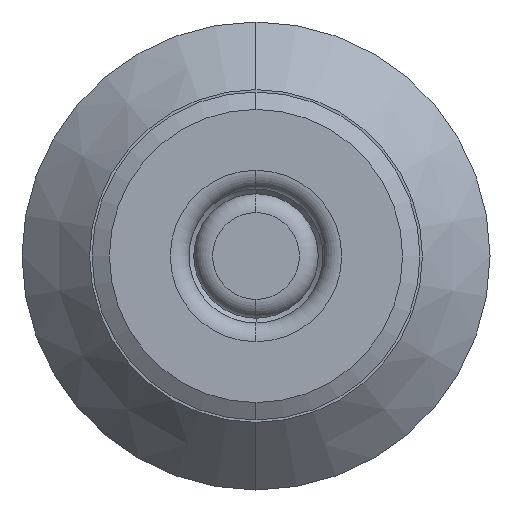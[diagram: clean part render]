
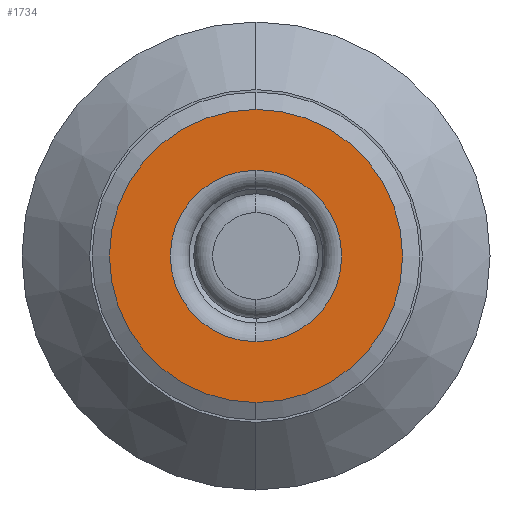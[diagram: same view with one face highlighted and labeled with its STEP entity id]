
A CAD part, left-side view. The second image highlights one B-rep face of the part: STEP entity #1734.
In plain terms, the highlighted planar face has unit normal (-1, 0, 0).
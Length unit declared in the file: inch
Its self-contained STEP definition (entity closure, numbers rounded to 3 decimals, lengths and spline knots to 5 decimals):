
#335 = DIRECTION ( 'NONE',  ( 0., 0., 1. ) ) ;
#336 = DIRECTION ( 'NONE',  ( 1., 0., 0. ) ) ;
#337 = AXIS2_PLACEMENT_3D ( 'NONE', #344, #336, #335 ) ;
#338 = CIRCLE ( 'NONE', #337, 0.11714 ) ;
#344 = CARTESIAN_POINT ( 'NONE',  ( -0.8185, 0., 0. ) ) ;
#447 = DIRECTION ( 'NONE',  ( 0., 0., -1. ) ) ;
#448 = DIRECTION ( 'NONE',  ( 1., 0., 0. ) ) ;
#449 = CARTESIAN_POINT ( 'NONE',  ( -0.8185, 0., 0. ) ) ;
#450 = AXIS2_PLACEMENT_3D ( 'NONE', #449, #448, #447 ) ;
#451 = CIRCLE ( 'NONE', #450, 0.0685 ) ;
#452 = DIRECTION ( 'NONE',  ( 0., 0., -1. ) ) ;
#453 = DIRECTION ( 'NONE',  ( -1., 0., 0. ) ) ;
#454 = CARTESIAN_POINT ( 'NONE',  ( -0.8185, 0., 0. ) ) ;
#455 = AXIS2_PLACEMENT_3D ( 'NONE', #454, #453, #452 ) ;
#456 = PLANE ( 'NONE',  #455 ) ;
#480 = FACE_OUTER_BOUND ( 'NONE', #1915, .T. ) ;
#481 = FACE_BOUND ( 'NONE', #1907, .T. ) ;
#526 = CARTESIAN_POINT ( 'NONE',  ( -0.8185, 0., 0.0685 ) ) ;
#549 = CARTESIAN_POINT ( 'NONE',  ( -0.8185, 0., -0.11714 ) ) ;
#550 = DIRECTION ( 'NONE',  ( 0., 0., 1. ) ) ;
#551 = DIRECTION ( 'NONE',  ( 1., 0., 0. ) ) ;
#552 = CARTESIAN_POINT ( 'NONE',  ( -0.8185, 0., 0. ) ) ;
#553 = AXIS2_PLACEMENT_3D ( 'NONE', #552, #551, #550 ) ;
#557 = CIRCLE ( 'NONE', #553, 0.11714 ) ;
#1008 = CARTESIAN_POINT ( 'NONE',  ( -0.8185, 0., 0.11714 ) ) ;
#1086 = CARTESIAN_POINT ( 'NONE',  ( -0.8185, 0., -0.0685 ) ) ;
#1087 = DIRECTION ( 'NONE',  ( 0., 0., -1. ) ) ;
#1088 = DIRECTION ( 'NONE',  ( 1., 0., 0. ) ) ;
#1089 = CARTESIAN_POINT ( 'NONE',  ( -0.8185, 0., 0. ) ) ;
#1090 = AXIS2_PLACEMENT_3D ( 'NONE', #1089, #1088, #1087 ) ;
#1091 = CIRCLE ( 'NONE', #1090, 0.0685 ) ;
#1722 = VERTEX_POINT ( 'NONE', #526 ) ;
#1731 = EDGE_CURVE ( 'NONE', #1795, #1927, #338, .T. ) ;
#1734 = ADVANCED_FACE ( 'NONE', ( #481, #480 ), #456, .T. ) ;
#1735 = EDGE_CURVE ( 'NONE', #1942, #1722, #451, .T. ) ;
#1736 = ORIENTED_EDGE ( 'NONE', *, *, #1735, .T. ) ;
#1765 = ORIENTED_EDGE ( 'NONE', *, *, #1794, .F. ) ;
#1767 = ORIENTED_EDGE ( 'NONE', *, *, #1941, .T. ) ;
#1794 = EDGE_CURVE ( 'NONE', #1927, #1795, #557, .T. ) ;
#1795 = VERTEX_POINT ( 'NONE', #549 ) ;
#1907 = EDGE_LOOP ( 'NONE', ( #1736, #1767 ) ) ;
#1915 = EDGE_LOOP ( 'NONE', ( #1765, #1935 ) ) ;
#1927 = VERTEX_POINT ( 'NONE', #1008 ) ;
#1935 = ORIENTED_EDGE ( 'NONE', *, *, #1731, .F. ) ;
#1941 = EDGE_CURVE ( 'NONE', #1722, #1942, #1091, .T. ) ;
#1942 = VERTEX_POINT ( 'NONE', #1086 ) ;
